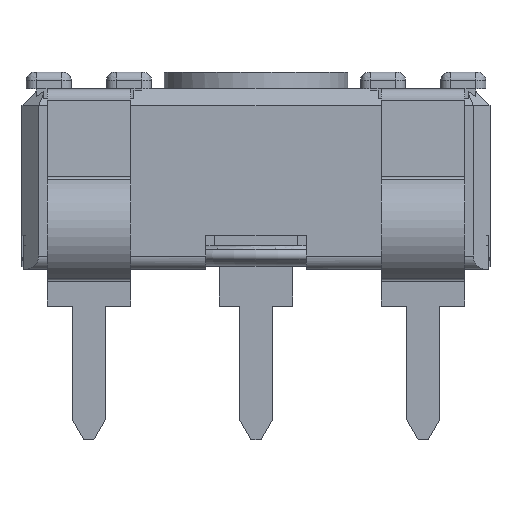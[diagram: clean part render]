
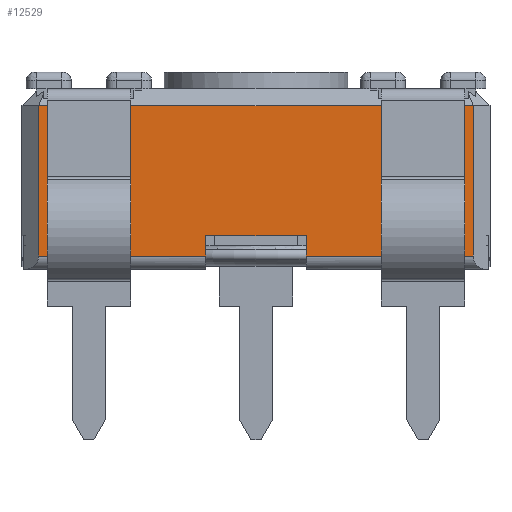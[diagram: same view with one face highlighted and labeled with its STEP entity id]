
A CAD part, front view. The second image highlights one B-rep face of the part: STEP entity #12529.
In plain terms, the highlighted planar face has unit normal (0, -1, 0).
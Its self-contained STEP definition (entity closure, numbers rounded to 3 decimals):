
#1239=FACE_OUTER_BOUND('',#1867,.T.);
#1867=EDGE_LOOP('',(#10568,#10569,#10570,#10571,#10572,#10573,#10574,#10575));
#2811=LINE('',#19643,#4111);
#2819=LINE('',#19660,#4119);
#2836=LINE('',#19703,#4136);
#2837=LINE('',#19708,#4137);
#3113=LINE('',#20497,#4413);
#3125=LINE('',#20519,#4425);
#3147=LINE('',#20570,#4447);
#3151=LINE('',#20576,#4451);
#4111=VECTOR('',#15858,10.);
#4119=VECTOR('',#15870,10.);
#4136=VECTOR('',#15907,10.);
#4137=VECTOR('',#15914,10.);
#4413=VECTOR('',#16640,10.);
#4425=VECTOR('',#16662,10.);
#4447=VECTOR('',#16708,10.);
#4451=VECTOR('',#16716,10.);
#5341=VERTEX_POINT('',#19640);
#5342=VERTEX_POINT('',#19642);
#5349=VERTEX_POINT('',#19658);
#5364=VERTEX_POINT('',#19700);
#5365=VERTEX_POINT('',#19702);
#5366=VERTEX_POINT('',#19706);
#5622=VERTEX_POINT('',#20496);
#5634=VERTEX_POINT('',#20568);
#6877=EDGE_CURVE('',#5341,#5342,#2811,.T.);
#6886=EDGE_CURVE('',#5341,#5349,#2819,.T.);
#6907=EDGE_CURVE('',#5364,#5365,#2836,.T.);
#6910=EDGE_CURVE('',#5365,#5366,#2837,.T.);
#7294=EDGE_CURVE('',#5622,#5342,#3113,.T.);
#7306=EDGE_CURVE('',#5364,#5622,#3125,.T.);
#7329=EDGE_CURVE('',#5634,#5349,#3147,.T.);
#7333=EDGE_CURVE('',#5366,#5634,#3151,.T.);
#10568=ORIENTED_EDGE('',*,*,#6877,.F.);
#10569=ORIENTED_EDGE('',*,*,#6886,.T.);
#10570=ORIENTED_EDGE('',*,*,#7329,.F.);
#10571=ORIENTED_EDGE('',*,*,#7333,.F.);
#10572=ORIENTED_EDGE('',*,*,#6910,.F.);
#10573=ORIENTED_EDGE('',*,*,#6907,.F.);
#10574=ORIENTED_EDGE('',*,*,#7306,.T.);
#10575=ORIENTED_EDGE('',*,*,#7294,.T.);
#11334=PLANE('',#13551);
#12529=ADVANCED_FACE('',(#1239),#11334,.T.);
#13551=AXIS2_PLACEMENT_3D('',#20575,#16714,#16715);
#15858=DIRECTION('',(-1.,0.,0.));
#15870=DIRECTION('',(0.,0.,1.));
#15907=DIRECTION('',(0.,0.,-1.));
#15914=DIRECTION('',(-1.,0.,0.));
#16640=DIRECTION('',(0.,0.,-1.));
#16662=DIRECTION('',(1.,0.,0.));
#16708=DIRECTION('',(1.,0.,0.));
#16714=DIRECTION('center_axis',(0.,-1.,0.));
#16715=DIRECTION('ref_axis',(1.,0.,0.));
#16716=DIRECTION('',(0.,0.,1.));
#19640=CARTESIAN_POINT('',(-3.655,0.3,-0.6));
#19642=CARTESIAN_POINT('',(-8.655,0.3,-0.6));
#19643=CARTESIAN_POINT('',(-11.325,0.3,-0.6));
#19658=CARTESIAN_POINT('',(-3.655,0.3,3.9));
#19660=CARTESIAN_POINT('',(-3.655,0.3,0.));
#19700=CARTESIAN_POINT('',(-11.655,0.3,0.));
#19702=CARTESIAN_POINT('',(-11.655,0.3,-0.6));
#19703=CARTESIAN_POINT('',(-11.655,0.3,-0.3));
#19706=CARTESIAN_POINT('',(-16.655,0.3,-0.6));
#19708=CARTESIAN_POINT('',(-15.484,0.3,-0.6));
#20496=CARTESIAN_POINT('',(-8.655,0.3,0.));
#20497=CARTESIAN_POINT('',(-8.655,0.3,0.));
#20519=CARTESIAN_POINT('',(-16.655,0.3,0.));
#20568=CARTESIAN_POINT('',(-16.655,0.3,3.9));
#20570=CARTESIAN_POINT('',(-13.405,0.3,3.9));
#20575=CARTESIAN_POINT('Origin',(-16.655,0.3,0.));
#20576=CARTESIAN_POINT('',(-16.655,0.3,0.));
